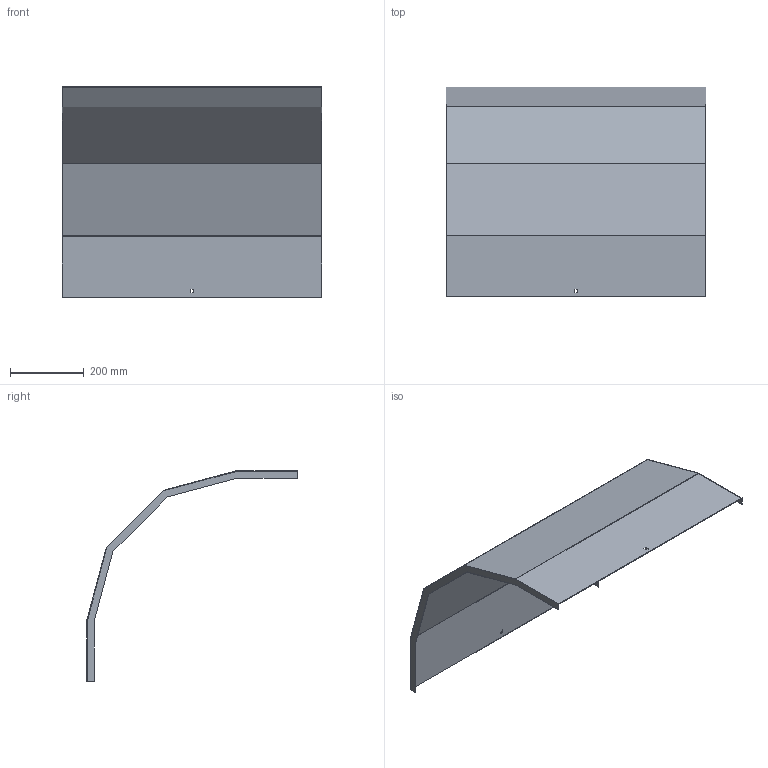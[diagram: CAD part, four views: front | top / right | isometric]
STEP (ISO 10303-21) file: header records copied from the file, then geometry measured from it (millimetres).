
FILE_DESCRIPTION (( 'STEP AP214' ), '1' );
FILE_NAME ('A2_33N3D700.step', '2025-02-21T10:45:11', ( '' ), ( '' ), 'SwSTEP 2.0', 'SolidWorks 2023', '' );
FILE_SCHEMA (( 'AUTOMOTIVE_DESIGN' ));
Length unit declared in the file: millimetre
Products named in the file (1): A2_33N3D700
Bounding box: 703 x 569.61 x 569.61 mm (x, y, z)
Volume: 1059841.3 mm3; surface area: 1418213.4 mm2
Topology: 1 solids, 1 shells, 34 faces, 96 edges, 64 vertices
Faces by surface type: plane 34
Entity records: 1111 total; most frequent: CARTESIAN_POINT 195, ORIENTED_EDGE 192, DIRECTION 166, EDGE_CURVE 96, LINE 96, VECTOR 96, VERTEX_POINT 64, EDGE_LOOP 38
